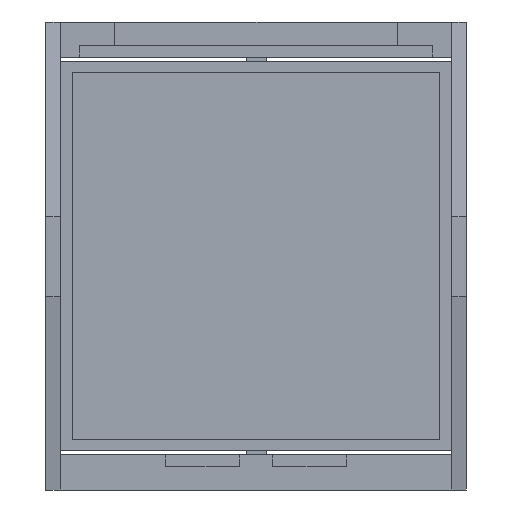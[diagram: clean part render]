
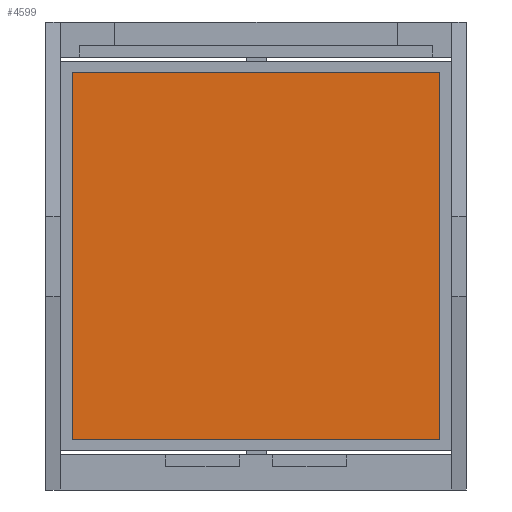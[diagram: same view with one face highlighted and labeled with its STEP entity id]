
A CAD part, front view. The second image highlights one B-rep face of the part: STEP entity #4599.
In plain terms, the highlighted planar face has unit normal (0, -1, 0).
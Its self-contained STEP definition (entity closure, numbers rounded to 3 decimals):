
#42 = PLANE ( 'NONE',  #7634 ) ;
#58 = VECTOR ( 'NONE', #4660, 1000. ) ;
#212 = CARTESIAN_POINT ( 'NONE',  ( -31.099, -0.416, 43.342 ) ) ;
#1176 = LINE ( 'NONE', #6152, #8502 ) ;
#1353 = VERTEX_POINT ( 'NONE', #212 ) ;
#1493 = CARTESIAN_POINT ( 'NONE',  ( -31.099, -0.416, 8.342 ) ) ;
#1497 = DIRECTION ( 'NONE',  ( -1., 0., 0. ) ) ;
#1512 = DIRECTION ( 'NONE',  ( 0., 1., 0. ) ) ;
#1546 = EDGE_CURVE ( 'NONE', #8033, #5049, #7287, .T. ) ;
#2045 = DIRECTION ( 'NONE',  ( 0., 0., 1. ) ) ;
#2122 = ORIENTED_EDGE ( 'NONE', *, *, #6155, .F. ) ;
#2295 = ORIENTED_EDGE ( 'NONE', *, *, #1546, .F. ) ;
#2655 = FACE_OUTER_BOUND ( 'NONE', #4870, .T. ) ;
#3507 = ORIENTED_EDGE ( 'NONE', *, *, #6922, .F. ) ;
#3517 = ORIENTED_EDGE ( 'NONE', *, *, #6544, .F. ) ;
#4205 = CARTESIAN_POINT ( 'NONE',  ( -66.099, -0.416, 43.342 ) ) ;
#4599 = ADVANCED_FACE ( 'NONE', ( #2655 ), #42, .F. ) ;
#4660 = DIRECTION ( 'NONE',  ( 0., 0., -1. ) ) ;
#4743 = DIRECTION ( 'NONE',  ( 1., 0., 0. ) ) ;
#4870 = EDGE_LOOP ( 'NONE', ( #3507, #2295, #2122, #3517 ) ) ;
#5049 = VERTEX_POINT ( 'NONE', #7683 ) ;
#6152 = CARTESIAN_POINT ( 'NONE',  ( -66.099, -0.416, 43.342 ) ) ;
#6155 = EDGE_CURVE ( 'NONE', #1353, #8033, #7428, .T. ) ;
#6296 = CARTESIAN_POINT ( 'NONE',  ( -66.099, -0.416, 8.342 ) ) ;
#6544 = EDGE_CURVE ( 'NONE', #8396, #1353, #1176, .T. ) ;
#6922 = EDGE_CURVE ( 'NONE', #5049, #8396, #9301, .T. ) ;
#7287 = LINE ( 'NONE', #8041, #7974 ) ;
#7428 = LINE ( 'NONE', #8171, #58 ) ;
#7634 = AXIS2_PLACEMENT_3D ( 'NONE', #4205, #1512, #2045 ) ;
#7683 = CARTESIAN_POINT ( 'NONE',  ( -66.099, -0.416, 8.342 ) ) ;
#7908 = VECTOR ( 'NONE', #9395, 1000. ) ;
#7974 = VECTOR ( 'NONE', #1497, 1000. ) ;
#8033 = VERTEX_POINT ( 'NONE', #1493 ) ;
#8041 = CARTESIAN_POINT ( 'NONE',  ( -66.099, -0.416, 8.342 ) ) ;
#8171 = CARTESIAN_POINT ( 'NONE',  ( -31.099, -0.416, 8.342 ) ) ;
#8316 = CARTESIAN_POINT ( 'NONE',  ( -66.099, -0.416, 43.342 ) ) ;
#8396 = VERTEX_POINT ( 'NONE', #8316 ) ;
#8502 = VECTOR ( 'NONE', #4743, 1000. ) ;
#9301 = LINE ( 'NONE', #6296, #7908 ) ;
#9395 = DIRECTION ( 'NONE',  ( 0., 0., 1. ) ) ;
